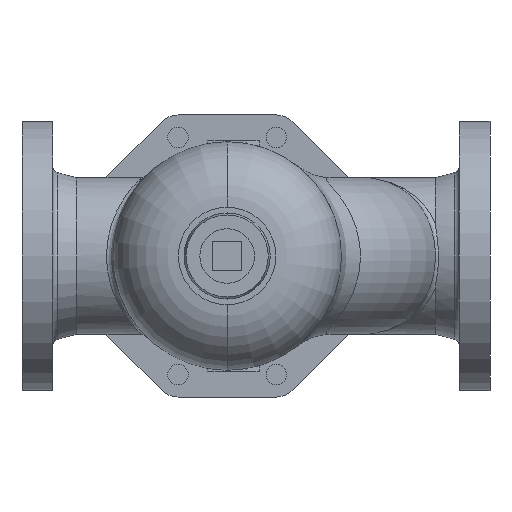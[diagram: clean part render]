
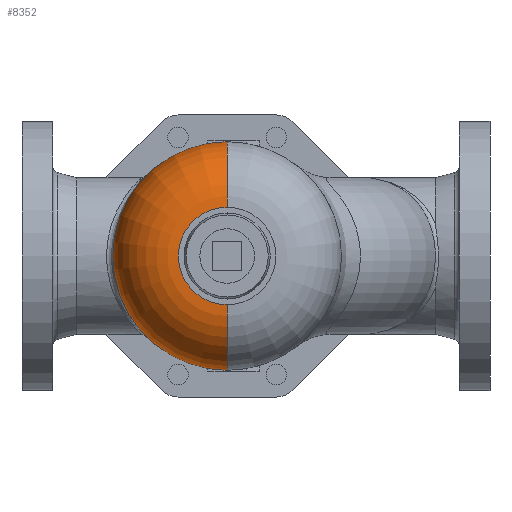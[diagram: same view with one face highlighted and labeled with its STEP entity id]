
A CAD part, front view. The second image highlights one B-rep face of the part: STEP entity #8352.
In plain terms, the highlighted toroidal (fillet/blend) face has major radius 38 mm and minor radius 51 mm.
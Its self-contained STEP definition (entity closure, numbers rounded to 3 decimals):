
#557 = ORIENTED_EDGE ( 'NONE', *, *, #5824, .T. ) ;
#742 = ORIENTED_EDGE ( 'NONE', *, *, #2974, .F. ) ;
#1123 = CARTESIAN_POINT ( 'NONE',  ( 0., -256., 38. ) ) ;
#1208 = CARTESIAN_POINT ( 'NONE',  ( 0., -205., 0. ) ) ;
#1260 = FACE_OUTER_BOUND ( 'NONE', #8488, .T. ) ;
#1338 = DIRECTION ( 'NONE',  ( 0., 1., 0. ) ) ;
#1671 = CARTESIAN_POINT ( 'NONE',  ( 0., -205., -38. ) ) ;
#2238 = VERTEX_POINT ( 'NONE', #1123 ) ;
#2261 = VERTEX_POINT ( 'NONE', #3488 ) ;
#2432 = CARTESIAN_POINT ( 'NONE',  ( 0., -205., -89. ) ) ;
#2974 = EDGE_CURVE ( 'NONE', #2261, #3748, #4690, .T. ) ;
#3000 = DIRECTION ( 'NONE',  ( 0., 1., 0. ) ) ;
#3268 = EDGE_CURVE ( 'NONE', #3748, #4115, #4353, .T. ) ;
#3339 = DIRECTION ( 'NONE',  ( 1., 0., 0. ) ) ;
#3471 = ORIENTED_EDGE ( 'NONE', *, *, #7668, .T. ) ;
#3488 = CARTESIAN_POINT ( 'NONE',  ( 0., -256., -38. ) ) ;
#3520 = DIRECTION ( 'NONE',  ( 0., 1., 0. ) ) ;
#3748 = VERTEX_POINT ( 'NONE', #2432 ) ;
#4115 = VERTEX_POINT ( 'NONE', #6141 ) ;
#4353 = CIRCLE ( 'NONE', #8264, 89. ) ;
#4480 = DIRECTION ( 'NONE',  ( 0., 0., 1. ) ) ;
#4690 = CIRCLE ( 'NONE', #10310, 51. ) ;
#4757 = CARTESIAN_POINT ( 'NONE',  ( 0., -205., 0. ) ) ;
#5475 = AXIS2_PLACEMENT_3D ( 'NONE', #6596, #9852, #9801 ) ;
#5573 = ORIENTED_EDGE ( 'NONE', *, *, #3268, .F. ) ;
#5824 = EDGE_CURVE ( 'NONE', #2238, #4115, #10083, .T. ) ;
#5995 = CARTESIAN_POINT ( 'NONE',  ( 0., -256., 0. ) ) ;
#6141 = CARTESIAN_POINT ( 'NONE',  ( 0., -205., 89. ) ) ;
#6454 = DIRECTION ( 'NONE',  ( 0., 0., 1. ) ) ;
#6596 = CARTESIAN_POINT ( 'NONE',  ( 0., -205., 38. ) ) ;
#7668 = EDGE_CURVE ( 'NONE', #2261, #2238, #9854, .T. ) ;
#8135 = AXIS2_PLACEMENT_3D ( 'NONE', #1208, #3520, #4480 ) ;
#8147 = AXIS2_PLACEMENT_3D ( 'NONE', #5995, #1338, #8455 ) ;
#8264 = AXIS2_PLACEMENT_3D ( 'NONE', #4757, #3000, #6454 ) ;
#8352 = ADVANCED_FACE ( 'NONE', ( #1260 ), #8645, .T. ) ;
#8455 = DIRECTION ( 'NONE',  ( 0., 0., 1. ) ) ;
#8488 = EDGE_LOOP ( 'NONE', ( #742, #3471, #557, #5573 ) ) ;
#8645 = TOROIDAL_SURFACE ( 'NONE', #8135, 38., 51. ) ;
#8940 = DIRECTION ( 'NONE',  ( 0., 0., -1. ) ) ;
#9801 = DIRECTION ( 'NONE',  ( 0., 0., 1. ) ) ;
#9852 = DIRECTION ( 'NONE',  ( -1., 0., 0. ) ) ;
#9854 = CIRCLE ( 'NONE', #8147, 38. ) ;
#10083 = CIRCLE ( 'NONE', #5475, 51. ) ;
#10310 = AXIS2_PLACEMENT_3D ( 'NONE', #1671, #3339, #8940 ) ;
